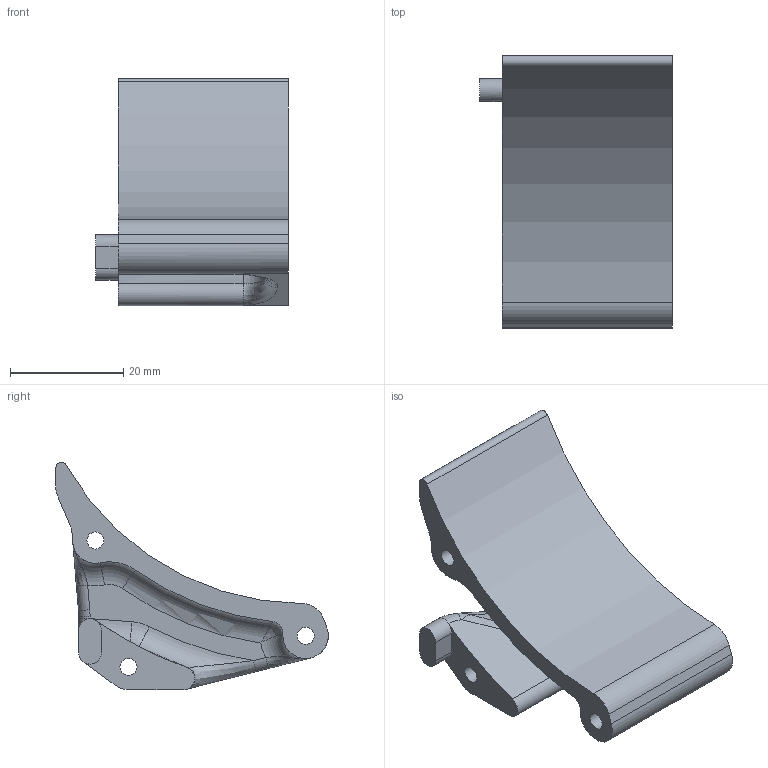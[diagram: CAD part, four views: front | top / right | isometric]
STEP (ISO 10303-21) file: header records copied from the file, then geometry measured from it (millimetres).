
FILE_DESCRIPTION(/* description */ ('CAx-IF Rec.Pracs.---Representation and Presentation of Product Manufacturing Information (PMI)---4.0---2014-10-13','CAx-IF Rec.Pracs.---3D Tessellated Geometry---0.4---2014-09-14','2;1'),/* implementation_level */ '2;1');
FILE_NAME(/* name */ 'qc1_p77',/* time_stamp */ '2026-07-26T03:33:11+03:00',/* author */ (''),/* organization */ (''),/* preprocessor_version */ 'ST-DEVELOPER v19.4',/* originating_system */ 'SIEMENS PLM Software NX2306.1700',/* authorisation */ $);
FILE_SCHEMA (('AP242_MANAGED_MODEL_BASED_3D_ENGINEERING_MIM_LF { 1 0 10303 442 3 1 4 }'));
Length unit declared in the file: millimetre
Products named in the file (1): qc1_p77
Bounding box: 34 x 48.05 x 40.07 mm (x, y, z)
Volume: 13379.3 mm3; surface area: 7812.3 mm2
Topology: 1 solids, 1 shells, 72 faces, 179 edges, 106 vertices
Faces by surface type: cylinder 30, plane 21, bspline 14, torus 7
Full cylindrical faces by diameter (mm): 3.01 x3, 6 x3
Entity records: 2294 total; most frequent: CARTESIAN_POINT 638, DIRECTION 347, ORIENTED_EDGE 334, EDGE_CURVE 167, AXIS2_PLACEMENT_3D 142, VERTEX_POINT 106, EDGE_LOOP 87, FACE_BOUND 87
